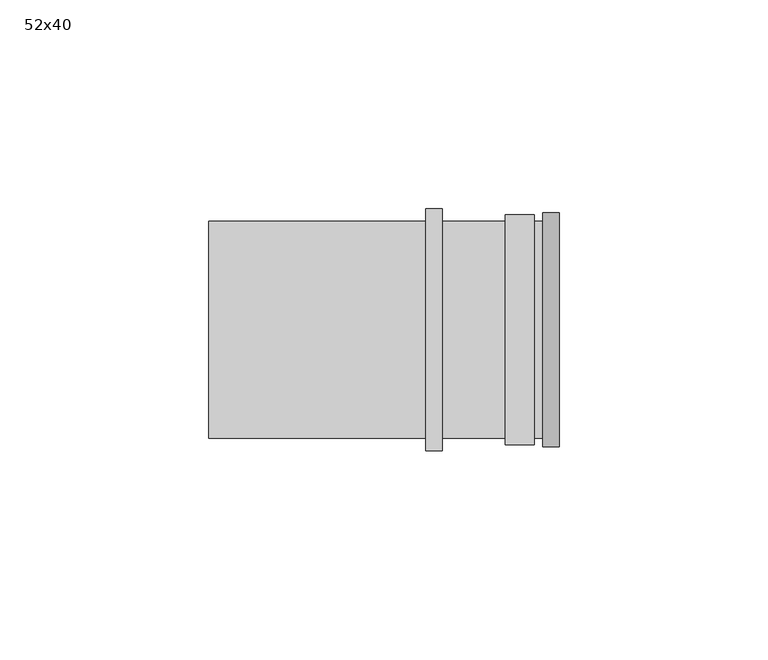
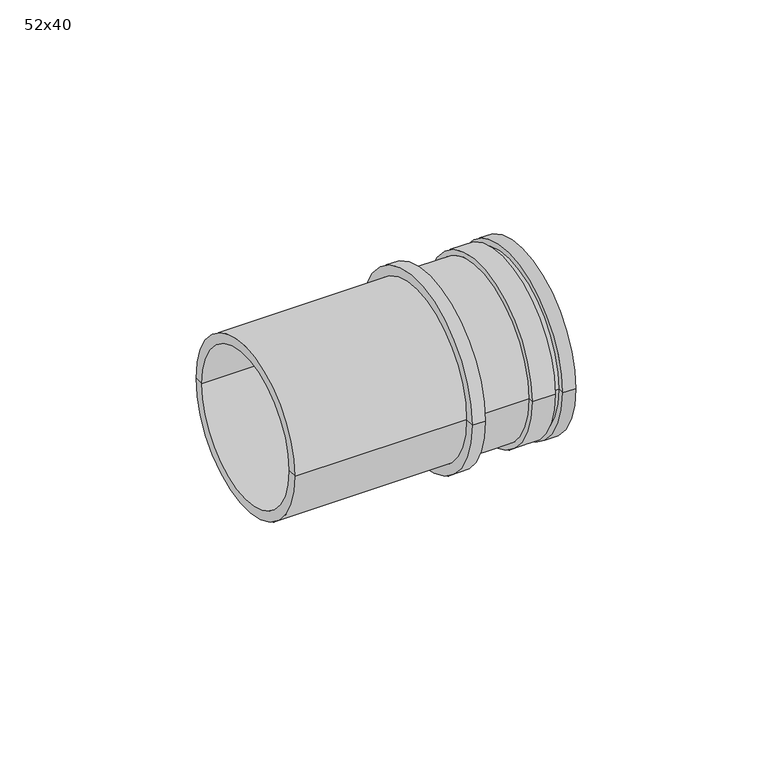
"""IFC4 building model written with IfcOpenShell, lengths in millimetres: pipe fitting geometry, AliaxisFR_Friaphon_CopperPVCConnector_FR : 52x40."""

from ifc_helpers import new_model, si_unit, frame, origin, place, context, project, spatial, polyline, circle_curve, source, transform, mapped, element, save
from ifc_brep_helpers import plane_surface, cylinder_surface, revolved_surface, advanced_brep


def pipe_fitting_52x40_94625002(model_context):
    return source(origin(), model_context, "Body", "AdvancedBrep", [
        advanced_brep(
        [(19.0, 27.5404487, 0.0), (19.0, -27.5404487, 0.0), (19.0, -26.0, 0.0), (19.0, 26.0, 0.0), (26.0, 27.5404487, 0.0), (26.0, -27.5404487, 0.0), (26.0, 26.0, 0.0), (26.0, -26.0, 0.0), (28.0, 26.0, 0.0), (28.0, -26.0, 0.0), (28.0, 23.0, 0.0), (28.0, -23.0, 0.0), (-52.0, 23.0, 0.0), (-52.0, -23.0, 0.0), (0.0, 26.0, 0.0), (0.0, -26.0, 0.0), (-52.0, -26.0, 0.0), (-52.0, 26.0, 0.0), (0.0, 29.0, 0.0), (0.0, -29.0, 0.0), (4.0, 29.0, 0.0), (4.0, -29.0, 0.0), (4.0, 26.0, 0.0), (4.0, -26.0, 0.0)],
        [
            (0, 1, circle_curve(frame((19.0, 0.0, 0.0), z_axis=(-1.0, 0.0, 0.0), x_axis=(0.0, -1.0, 0.0)), 27.5404487)),
            (1, 2),
            (2, 3, circle_curve(frame((19.0, 0.0, 0.0), z_axis=(1.0, 0.0, 0.0), x_axis=(0.0, -1.0, 0.0)), 26.0)),
            (3, 0),
            (1, 0, circle_curve(frame((19.0, 0.0, 0.0), z_axis=(-1.0, 0.0, 0.0), x_axis=(0.0, -1.0, 0.0)), 27.5404487)),
            (3, 2, circle_curve(frame((19.0, 0.0, 0.0), z_axis=(1.0, 0.0, 0.0), x_axis=(0.0, -1.0, 0.0)), 26.0)),
            (4, 5, circle_curve(frame((26.0, 0.0, 0.0), z_axis=(-1.0, 0.0, 0.0), x_axis=(0.0, -1.0, 0.0)), 27.5404487)),
            (5, 1),
            (0, 4),
            (5, 4, circle_curve(frame((26.0, 0.0, 0.0), z_axis=(-1.0, 0.0, 0.0), x_axis=(0.0, -1.0, 0.0)), 27.5404487)),
            (6, 7, circle_curve(frame((26.0, 0.0, 0.0), z_axis=(-1.0, 0.0, 0.0), x_axis=(0.0, -1.0, 0.0)), 26.0)),
            (7, 5),
            (4, 6),
            (7, 6, circle_curve(frame((26.0, 0.0, 0.0), z_axis=(-1.0, 0.0, 0.0), x_axis=(0.0, -1.0, 0.0)), 26.0)),
            (8, 9, circle_curve(frame((28.0, 0.0, 0.0), z_axis=(-1.0, 0.0, 0.0), x_axis=(0.0, -1.0, 0.0)), 26.0)),
            (9, 7),
            (6, 8),
            (9, 8, circle_curve(frame((28.0, 0.0, 0.0), z_axis=(-1.0, 0.0, 0.0), x_axis=(0.0, -1.0, 0.0)), 26.0)),
            (10, 11, circle_curve(frame((28.0, 0.0, 0.0), z_axis=(-1.0, 0.0, 0.0), x_axis=(0.0, -1.0, 0.0)), 23.0)),
            (11, 9),
            (8, 10),
            (11, 10, circle_curve(frame((28.0, 0.0, 0.0), z_axis=(-1.0, 0.0, 0.0), x_axis=(0.0, -1.0, 0.0)), 23.0)),
            (12, 13, circle_curve(frame((-52.0, 0.0, 0.0), z_axis=(-1.0, 0.0, 0.0), x_axis=(0.0, -1.0, 0.0)), 23.0)),
            (13, 11),
            (10, 12),
            (13, 12, circle_curve(frame((-52.0, 0.0, 0.0), z_axis=(-1.0, 0.0, 0.0), x_axis=(0.0, -1.0, 0.0)), 23.0)),
            (14, 15, circle_curve(frame((0.0, 0.0, 0.0), z_axis=(-1.0, 0.0, 0.0), x_axis=(0.0, -1.0, 0.0)), 26.0)),
            (15, 16),
            (16, 17, circle_curve(frame((-52.0, 0.0, 0.0), z_axis=(1.0, 0.0, 0.0), x_axis=(0.0, -1.0, 0.0)), 26.0)),
            (17, 14),
            (15, 14, circle_curve(frame((0.0, 0.0, 0.0), z_axis=(-1.0, 0.0, 0.0), x_axis=(0.0, -1.0, 0.0)), 26.0)),
            (17, 16, circle_curve(frame((-52.0, 0.0, 0.0), z_axis=(1.0, 0.0, 0.0), x_axis=(0.0, -1.0, 0.0)), 26.0)),
            (16, 13),
            (12, 17),
            (18, 19, circle_curve(frame((0.0, 0.0, 0.0), z_axis=(-1.0, 0.0, 0.0), x_axis=(0.0, -1.0, 0.0)), 29.0)),
            (19, 15),
            (14, 18),
            (19, 18, circle_curve(frame((0.0, 0.0, 0.0), z_axis=(-1.0, 0.0, 0.0), x_axis=(0.0, -1.0, 0.0)), 29.0)),
            (20, 21, circle_curve(frame((4.0, 0.0, 0.0), z_axis=(-1.0, 0.0, 0.0), x_axis=(0.0, -1.0, 0.0)), 29.0)),
            (21, 19),
            (18, 20),
            (21, 20, circle_curve(frame((4.0, 0.0, 0.0), z_axis=(-1.0, 0.0, 0.0), x_axis=(0.0, -1.0, 0.0)), 29.0)),
            (22, 23, circle_curve(frame((4.0, 0.0, 0.0), z_axis=(-1.0, 0.0, 0.0), x_axis=(0.0, -1.0, 0.0)), 26.0)),
            (23, 21),
            (20, 22),
            (23, 22, circle_curve(frame((4.0, 0.0, 0.0), z_axis=(-1.0, 0.0, 0.0), x_axis=(0.0, -1.0, 0.0)), 26.0)),
            (2, 23),
            (22, 3),
        ],
        [
            plane_surface(frame((19.0, 0.0, 0.0), z_axis=(-1.0, 0.0, 0.0), x_axis=(0.0, -1.0, 0.0))),
            cylinder_surface(frame((1990.0, 0.0, 0.0), z_axis=(1.0, 0.0, 0.0), x_axis=(0.0, -1.0, 0.0)), 27.5404487),
            plane_surface(frame((26.0, 0.0, 0.0), z_axis=(1.0, 0.0, 0.0), x_axis=(0.0, -1.0, 0.0))),
            cylinder_surface(frame((1990.0, 0.0, 0.0), z_axis=(1.0, 0.0, 0.0), x_axis=(0.0, -1.0, 0.0)), 26.0),
            plane_surface(frame((28.0, 0.0, 0.0), z_axis=(1.0, 0.0, 0.0), x_axis=(0.0, -1.0, 0.0))),
            revolved_surface(polyline([(28.0, -23.0, 0.0), (-52.0, -23.0, 0.0)]), (1990.0, 0.0, 0.0), (1.0, 0.0, 0.0)),
            plane_surface(frame((-52.0, 0.0, 0.0), z_axis=(-1.0, 0.0, 0.0), x_axis=(0.0, -1.0, 0.0))),
            plane_surface(frame((0.0, 0.0, 0.0), z_axis=(-1.0, 0.0, 0.0), x_axis=(0.0, -1.0, 0.0))),
            cylinder_surface(frame((1990.0, 0.0, 0.0), z_axis=(1.0, 0.0, 0.0), x_axis=(0.0, -1.0, 0.0)), 29.0),
            plane_surface(frame((4.0, 0.0, 0.0), z_axis=(1.0, 0.0, 0.0), x_axis=(0.0, -1.0, 0.0))),
        ],
        [
            (0, [[1, 2, 3, 4]]),
            (0, [[5, -4, 6, -2]]),
            (1, [[7, 8, -1, 9]]),
            (1, [[10, -9, -5, -8]]),
            (2, [[11, 12, -7, 13]]),
            (2, [[14, -13, -10, -12]]),
            (3, [[15, 16, -11, 17]]),
            (3, [[18, -17, -14, -16]]),
            (4, [[19, 20, -15, 21]]),
            (4, [[22, -21, -18, -20]]),
            (5, [[23, 24, -19, 25]]),
            (5, [[26, -25, -22, -24]]),
            (3, [[27, 28, 29, 30]]),
            (3, [[31, -30, 32, -28]]),
            (6, [[-29, 33, -23, 34]]),
            (6, [[-32, -34, -26, -33]]),
            (7, [[35, 36, -27, 37]]),
            (7, [[38, -37, -31, -36]]),
            (8, [[39, 40, -35, 41]]),
            (8, [[42, -41, -38, -40]]),
            (9, [[43, 44, -39, 45]]),
            (9, [[46, -45, -42, -44]]),
            (3, [[-3, 47, -43, 48]]),
            (3, [[-6, -48, -46, -47]]),
        ],
    ),
        advanced_brep(
        [(4.0, -20.0, 0.0), (4.0, 20.0, 0.0), (4.0, 23.0, 0.0), (4.0, -23.0, 0.0), (32.0, -20.0, 0.0), (32.0, 20.0, 0.0), (32.0, -28.0, 0.0), (32.0, 28.0, 0.0), (28.0, -28.0, 0.0), (28.0, 28.0, 0.0), (28.0, -23.0, 0.0), (28.0, 23.0, 0.0)],
        [
            (0, 1, circle_curve(frame((4.0, 0.0, 0.0), z_axis=(1.0, 0.0, 0.0), x_axis=(0.0, 1.0, 0.0)), 20.0)),
            (1, 2),
            (2, 3, circle_curve(frame((4.0, 0.0, 0.0), z_axis=(-1.0, 0.0, 0.0), x_axis=(0.0, 1.0, 0.0)), 23.0)),
            (3, 0),
            (1, 0, circle_curve(frame((4.0, 0.0, 0.0), z_axis=(1.0, 0.0, 0.0), x_axis=(0.0, 1.0, 0.0)), 20.0)),
            (3, 2, circle_curve(frame((4.0, 0.0, 0.0), z_axis=(-1.0, 0.0, 0.0), x_axis=(0.0, 1.0, 0.0)), 23.0)),
            (4, 5, circle_curve(frame((32.0, 0.0, 0.0), z_axis=(1.0, 0.0, 0.0), x_axis=(0.0, 1.0, 0.0)), 20.0)),
            (5, 1),
            (0, 4),
            (5, 4, circle_curve(frame((32.0, 0.0, 0.0), z_axis=(1.0, 0.0, 0.0), x_axis=(0.0, 1.0, 0.0)), 20.0)),
            (6, 7, circle_curve(frame((32.0, 0.0, 0.0), z_axis=(1.0, 0.0, 0.0), x_axis=(0.0, 1.0, 0.0)), 28.0)),
            (7, 5),
            (4, 6),
            (7, 6, circle_curve(frame((32.0, 0.0, 0.0), z_axis=(1.0, 0.0, 0.0), x_axis=(0.0, 1.0, 0.0)), 28.0)),
            (8, 9, circle_curve(frame((28.0, 0.0, 0.0), z_axis=(1.0, 0.0, 0.0), x_axis=(0.0, 1.0, 0.0)), 28.0)),
            (9, 7),
            (6, 8),
            (9, 8, circle_curve(frame((28.0, 0.0, 0.0), z_axis=(1.0, 0.0, 0.0), x_axis=(0.0, 1.0, 0.0)), 28.0)),
            (10, 11, circle_curve(frame((28.0, 0.0, 0.0), z_axis=(1.0, 0.0, 0.0), x_axis=(0.0, 1.0, 0.0)), 23.0)),
            (11, 9),
            (8, 10),
            (11, 10, circle_curve(frame((28.0, 0.0, 0.0), z_axis=(1.0, 0.0, 0.0), x_axis=(0.0, 1.0, 0.0)), 23.0)),
            (2, 11),
            (10, 3),
        ],
        [
            plane_surface(frame((4.0, 0.0, 0.0), z_axis=(-1.0, 0.0, 0.0), x_axis=(0.0, 1.0, 0.0))),
            revolved_surface(polyline([(4.0, 20.0, 0.0), (32.0, 20.0, 0.0)]), (1990.0, 0.0, 0.0), (-1.0, 0.0, 0.0)),
            plane_surface(frame((32.0, 0.0, 0.0), z_axis=(1.0, 0.0, 0.0), x_axis=(0.0, 1.0, 0.0))),
            cylinder_surface(frame((1990.0, 0.0, 0.0), z_axis=(-1.0, 0.0, 0.0), x_axis=(0.0, 1.0, 0.0)), 28.0),
            plane_surface(frame((28.0, 0.0, 0.0), z_axis=(-1.0, 0.0, 0.0), x_axis=(0.0, 1.0, 0.0))),
            cylinder_surface(frame((1990.0, 0.0, 0.0), z_axis=(-1.0, 0.0, 0.0), x_axis=(0.0, 1.0, 0.0)), 23.0),
        ],
        [
            (0, [[1, 2, 3, 4]]),
            (0, [[5, -4, 6, -2]]),
            (1, [[7, 8, -1, 9]]),
            (1, [[10, -9, -5, -8]]),
            (2, [[11, 12, -7, 13]]),
            (2, [[14, -13, -10, -12]]),
            (3, [[15, 16, -11, 17]]),
            (3, [[18, -17, -14, -16]]),
            (4, [[19, 20, -15, 21]]),
            (4, [[22, -21, -18, -20]]),
            (5, [[-3, 23, -19, 24]]),
            (5, [[-6, -24, -22, -23]]),
        ],
    ),
    ])


if __name__ == "__main__":
    model = new_model("IFC4")
    model_context = context("Model", 3, world=origin())
    ifc_project = project(units=[si_unit("LENGTHUNIT", "METRE", prefix="MILLI")], contexts=[model_context])
    site = spatial("IfcSite", under=ifc_project)
    building = spatial("IfcBuilding", under=site)
    placement = place(None, origin())
    pipe_fitting_52x40_shape = pipe_fitting_52x40_94625002(model_context)
    element("IfcPipeFitting", 1, ObjectType="AliaxisFR_Friaphon_CopperPVCConnector_FR : 52x40", at=placement, inside=building, context=model_context, shape_type="MappedRepresentation", body=[
        mapped(pipe_fitting_52x40_shape, transform((0.0, 0.0, 0.0), x_axis=(1.0, 0.0, 0.0), y_axis=(0.0, 1.0, 0.0), z_axis=(0.0, 0.0, 1.0))),
    ])
    save(model, "model.ifc")
